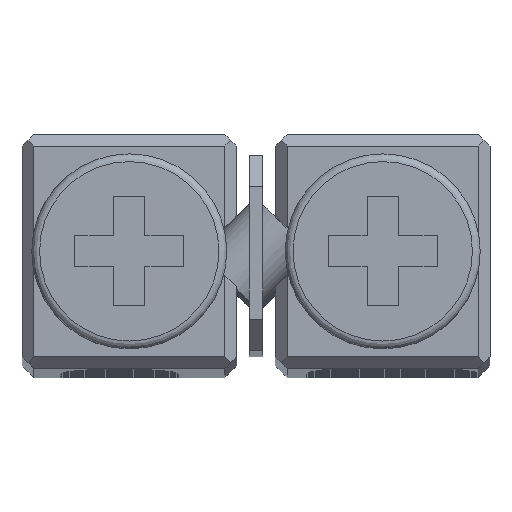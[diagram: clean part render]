
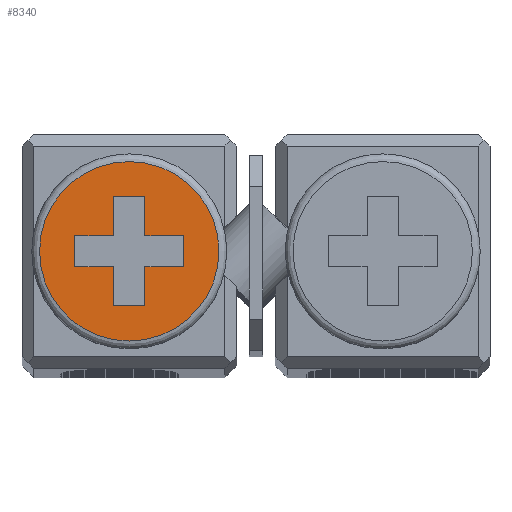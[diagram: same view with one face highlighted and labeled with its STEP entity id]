
A CAD part, top view. The second image highlights one B-rep face of the part: STEP entity #8340.
In plain terms, the highlighted planar face has unit normal (0, 0, 1).
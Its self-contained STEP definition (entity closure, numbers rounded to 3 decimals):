
#375=LINE('',#12143,#1110);
#376=LINE('',#12146,#1111);
#377=LINE('',#12148,#1112);
#378=LINE('',#12150,#1113);
#379=LINE('',#12152,#1114);
#380=LINE('',#12154,#1115);
#381=LINE('',#12156,#1116);
#382=LINE('',#12158,#1117);
#383=LINE('',#12160,#1118);
#384=LINE('',#12162,#1119);
#385=LINE('',#12164,#1120);
#386=LINE('',#12166,#1121);
#1110=VECTOR('',#9825,1000.);
#1111=VECTOR('',#9826,1000.);
#1112=VECTOR('',#9827,1000.);
#1113=VECTOR('',#9828,1000.);
#1114=VECTOR('',#9829,1000.);
#1115=VECTOR('',#9830,1000.);
#1116=VECTOR('',#9831,1000.);
#1117=VECTOR('',#9832,1000.);
#1118=VECTOR('',#9833,1000.);
#1119=VECTOR('',#9834,1000.);
#1120=VECTOR('',#9835,1000.);
#1121=VECTOR('',#9836,1000.);
#2019=ORIENTED_EDGE('',*,*,#4129,.F.);
#2020=ORIENTED_EDGE('',*,*,#4130,.F.);
#2021=ORIENTED_EDGE('',*,*,#4131,.F.);
#2022=ORIENTED_EDGE('',*,*,#4132,.F.);
#2023=ORIENTED_EDGE('',*,*,#4133,.F.);
#2024=ORIENTED_EDGE('',*,*,#4134,.F.);
#2025=ORIENTED_EDGE('',*,*,#4135,.F.);
#2026=ORIENTED_EDGE('',*,*,#4136,.F.);
#2027=ORIENTED_EDGE('',*,*,#4137,.F.);
#2028=ORIENTED_EDGE('',*,*,#4138,.F.);
#2029=ORIENTED_EDGE('',*,*,#4139,.F.);
#2030=ORIENTED_EDGE('',*,*,#4140,.F.);
#2031=ORIENTED_EDGE('',*,*,#4141,.T.);
#4129=EDGE_CURVE('',#5208,#5209,#375,.T.);
#4130=EDGE_CURVE('',#5210,#5208,#376,.T.);
#4131=EDGE_CURVE('',#5211,#5210,#377,.T.);
#4132=EDGE_CURVE('',#5212,#5211,#378,.T.);
#4133=EDGE_CURVE('',#5213,#5212,#379,.T.);
#4134=EDGE_CURVE('',#5214,#5213,#380,.T.);
#4135=EDGE_CURVE('',#5215,#5214,#381,.T.);
#4136=EDGE_CURVE('',#5216,#5215,#382,.T.);
#4137=EDGE_CURVE('',#5217,#5216,#383,.T.);
#4138=EDGE_CURVE('',#5218,#5217,#384,.T.);
#4139=EDGE_CURVE('',#5219,#5218,#385,.T.);
#4140=EDGE_CURVE('',#5209,#5219,#386,.T.);
#4141=EDGE_CURVE('',#5220,#5220,#5915,.T.);
#5208=VERTEX_POINT('',#12144);
#5209=VERTEX_POINT('',#12145);
#5210=VERTEX_POINT('',#12147);
#5211=VERTEX_POINT('',#12149);
#5212=VERTEX_POINT('',#12151);
#5213=VERTEX_POINT('',#12153);
#5214=VERTEX_POINT('',#12155);
#5215=VERTEX_POINT('',#12157);
#5216=VERTEX_POINT('',#12159);
#5217=VERTEX_POINT('',#12161);
#5218=VERTEX_POINT('',#12163);
#5219=VERTEX_POINT('',#12165);
#5220=VERTEX_POINT('',#12168);
#5915=CIRCLE('',#8813,2.3);
#6263=EDGE_LOOP('',(#2019,#2020,#2021,#2022,#2023,#2024,#2025,#2026,#2027,
#2028,#2029,#2030));
#6264=EDGE_LOOP('',(#2031));
#6840=FACE_BOUND('',#6263,.T.);
#6841=FACE_BOUND('',#6264,.T.);
#7342=PLANE('',#8812);
#8340=ADVANCED_FACE('',(#6840,#6841),#7342,.T.);
#8812=AXIS2_PLACEMENT_3D('',#12142,#9823,#9824);
#8813=AXIS2_PLACEMENT_3D('',#12167,#9837,#9838);
#9823=DIRECTION('',(0.,0.,1.));
#9824=DIRECTION('',(1.,0.,0.));
#9825=DIRECTION('',(-1.,0.,0.));
#9826=DIRECTION('',(0.,-1.,0.));
#9827=DIRECTION('',(-1.,0.,0.));
#9828=DIRECTION('',(0.,1.,0.));
#9829=DIRECTION('',(-1.,0.,0.));
#9830=DIRECTION('',(0.,1.,0.));
#9831=DIRECTION('',(1.,0.,0.));
#9832=DIRECTION('',(0.,1.,0.));
#9833=DIRECTION('',(1.,0.,0.));
#9834=DIRECTION('',(0.,-1.,0.));
#9835=DIRECTION('',(1.,0.,0.));
#9836=DIRECTION('',(0.,-1.,0.));
#9837=DIRECTION('',(0.,0.,1.));
#9838=DIRECTION('',(1.,0.,0.));
#12142=CARTESIAN_POINT('',(0.,0.,1.4));
#12143=CARTESIAN_POINT('',(-0.4,0.4,1.4));
#12144=CARTESIAN_POINT('',(-0.4,0.4,1.4));
#12145=CARTESIAN_POINT('',(-1.4,0.4,1.4));
#12146=CARTESIAN_POINT('',(-0.4,1.4,1.4));
#12147=CARTESIAN_POINT('',(-0.4,1.4,1.4));
#12148=CARTESIAN_POINT('',(0.4,1.4,1.4));
#12149=CARTESIAN_POINT('',(0.4,1.4,1.4));
#12150=CARTESIAN_POINT('',(0.4,0.4,1.4));
#12151=CARTESIAN_POINT('',(0.4,0.4,1.4));
#12152=CARTESIAN_POINT('',(1.4,0.4,1.4));
#12153=CARTESIAN_POINT('',(1.4,0.4,1.4));
#12154=CARTESIAN_POINT('',(1.4,-0.4,1.4));
#12155=CARTESIAN_POINT('',(1.4,-0.4,1.4));
#12156=CARTESIAN_POINT('',(0.4,-0.4,1.4));
#12157=CARTESIAN_POINT('',(0.4,-0.4,1.4));
#12158=CARTESIAN_POINT('',(0.4,-1.4,1.4));
#12159=CARTESIAN_POINT('',(0.4,-1.4,1.4));
#12160=CARTESIAN_POINT('',(-0.4,-1.4,1.4));
#12161=CARTESIAN_POINT('',(-0.4,-1.4,1.4));
#12162=CARTESIAN_POINT('',(-0.4,-0.4,1.4));
#12163=CARTESIAN_POINT('',(-0.4,-0.4,1.4));
#12164=CARTESIAN_POINT('',(-1.4,-0.4,1.4));
#12165=CARTESIAN_POINT('',(-1.4,-0.4,1.4));
#12166=CARTESIAN_POINT('',(-1.4,0.4,1.4));
#12167=CARTESIAN_POINT('',(0.,0.,1.4));
#12168=CARTESIAN_POINT('',(2.3,0.,1.4));
